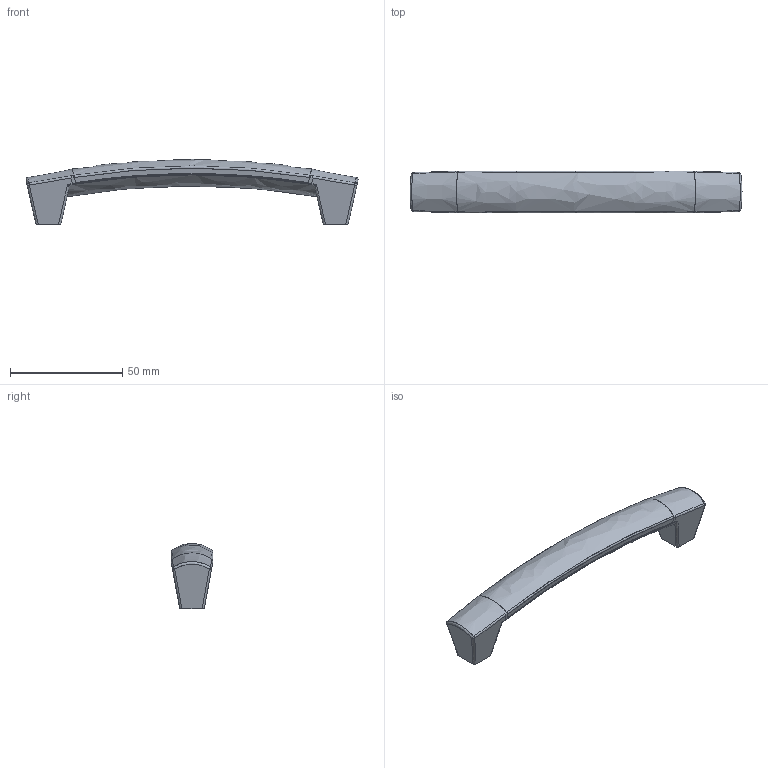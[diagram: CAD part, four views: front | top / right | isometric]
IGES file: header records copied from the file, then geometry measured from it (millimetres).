
Start section: C
Global section: file name: 8013.igs; native system: By Siemens PLM Incorporated; preprocessor: XPlus GENERIC/IGES 16.0.42; author: Author; organization: Title; date: 20231128.143228; units: millimetre
Bounding box: 147.94 x 18.54 x 29 mm (x, y, z)
Surface area: 16441.5 mm2 (no closed solid volume)
Topology: 0 solids, 0 shells, 208 faces, 1076 edges, 1076 vertices
Faces by surface type: bspline 208
